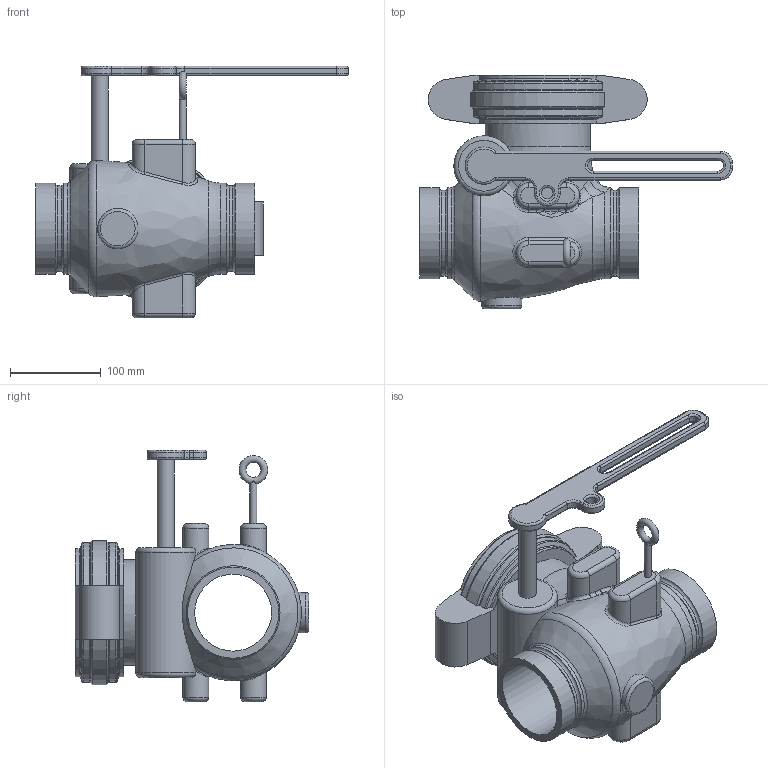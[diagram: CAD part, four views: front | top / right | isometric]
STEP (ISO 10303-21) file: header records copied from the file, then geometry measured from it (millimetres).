
FILE_DESCRIPTION(/* description */ ('VIC AWWA VALVE CHECK SPRING AND LEVER SERIES 317 (DRG)','CAx-IF Rec.Pracs.---Representation and Presentation of Product Manufacturing Information (PMI)---4.0---2014-10-13'),/* implementation_level */ '2;1');
FILE_NAME(/* name */ 'C:\Users\Vjadhav\Desktop\CAD for Inventor\1\317\STEP\Victaulic_AWWA_Valve Check Spring and Lever_Series 317 (DRG)\Victaulic_AWWA_Valve Check Spring and Lever_Series 317 (DRG)_3 (80).stp',/* time_stamp */ '2021-10-01T17:34:37+05:00',/* author */ ('jbrannon'),/* organization */ ('Victaulic'),/* preprocessor_version */ 'ST-DEVELOPER v17.2',/* originating_system */ 'Autodesk Inventor 2019',/* authorisation */ '');
FILE_SCHEMA (('AP242_MANAGED_MODEL_BASED_3D_ENGINEERING_MIM_LF { 1 0 10303 442 1 1 4 }'));
Length unit declared in the file: inch
Products named in the file (1): 317-03.0
Bounding box: 344.42 x 257.3 x 277.37 mm (x, y, z)
Volume: 4093364.5 mm3; surface area: 318580.2 mm2
Topology: 1 solids, 1 shells, 204 faces, 518 edges, 322 vertices
Faces by surface type: cylinder 65, torus 52, bspline 38, plane 37, cone 12
Full cylindrical faces by diameter (mm): 7.62 x1, 12.827 x1, 19.05 x1, 44.45 x1, 66.04 x1, 84.836 x1, 94.564 x2, 100.584 x4, 116.284 x1
Entity records: 8164 total; most frequent: CARTESIAN_POINT 3099, ORIENTED_EDGE 1036, DIRECTION 994, EDGE_CURVE 518, AXIS2_PLACEMENT_3D 428, VERTEX_POINT 322, CIRCLE 248, EDGE_LOOP 218
